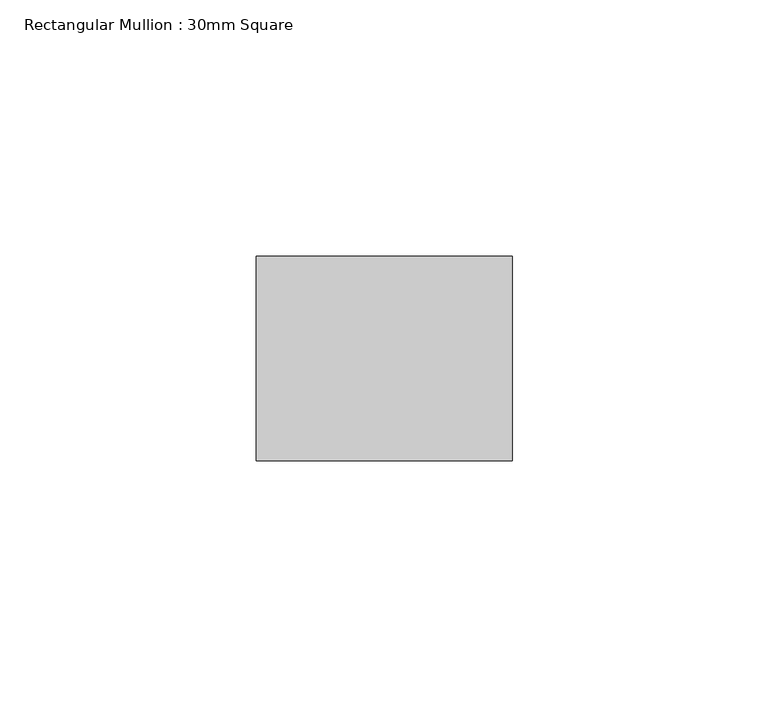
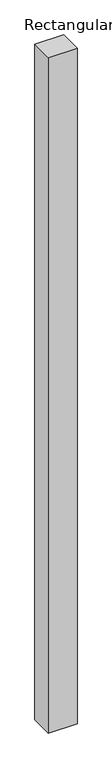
"""IFC4 building model written with IfcOpenShell, lengths in millimetres: member geometry, Rectangular Mullion : 30mm Square."""

from ifc_helpers import new_model, si_unit, frame, origin, place, context, project, spatial, polyline, outline, extrude, source, transform, mapped, element, save


def rectangular_mullion_30mm_square_48dd29ad(model_context):
    return source(origin(), model_context, "Body", "SweptSolid", [
        extrude(outline(polyline([(25.0, 20.0), (25.0, -20.0), (-25.0, -20.0), (-25.0, 20.0), (25.0, 20.0)])), frame((0.0, 0.0, -1240.0), z_axis=(0.0, 0.0, 1.0), x_axis=(1.0, 0.0, 0.0)), (0.0, 0.0, 1.0), 1240.0),
    ])


if __name__ == "__main__":
    model = new_model("IFC4")
    model_context = context("Model", 3, world=origin())
    ifc_project = project(units=[si_unit("LENGTHUNIT", "METRE", prefix="MILLI")], contexts=[model_context])
    site = spatial("IfcSite", under=ifc_project)
    building = spatial("IfcBuilding", under=site)
    placement = place(None, origin())
    rectangular_mullion_30mm_square_shape = rectangular_mullion_30mm_square_48dd29ad(model_context)
    element("IfcMember", 1, ObjectType="Rectangular Mullion : 30mm Square", at=placement, inside=building, context=model_context, shape_type="MappedRepresentation", body=[
        mapped(rectangular_mullion_30mm_square_shape, transform((0.0, 0.0, 0.0), x_axis=(1.0, 0.0, 0.0), y_axis=(0.0, 1.0, 0.0), z_axis=(0.0, 0.0, 1.0))),
    ])
    save(model, "model.ifc")
